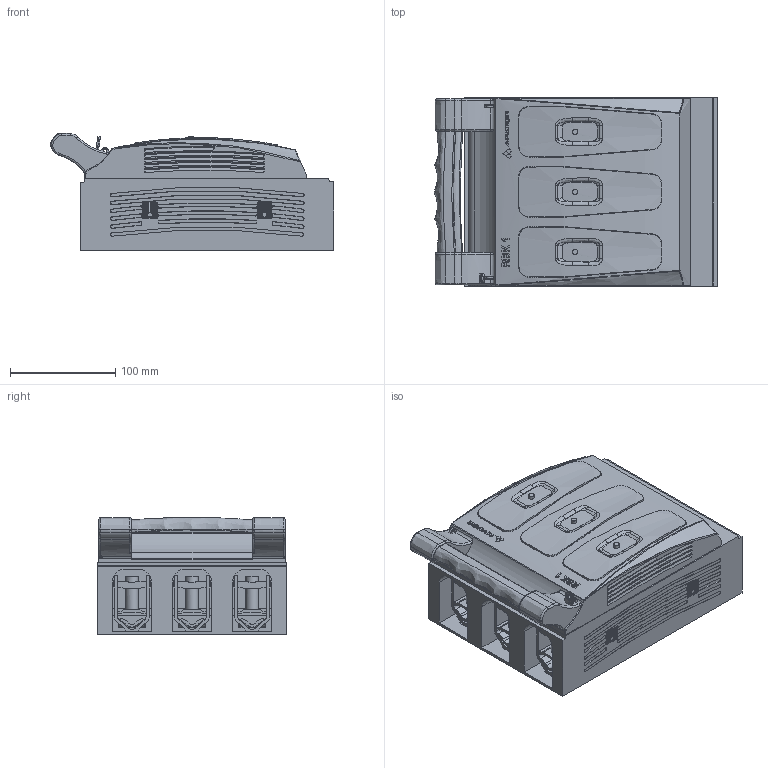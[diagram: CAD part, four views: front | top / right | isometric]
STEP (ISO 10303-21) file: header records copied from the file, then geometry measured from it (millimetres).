
FILE_DESCRIPTION(/* description */ (''),/* implementation_level */ '2;1');
FILE_NAME(/* name */ 'RBK 1 VG - 63-811784-051.stp',/* time_stamp */ '2019-03-11T09:18:00+01:00',/* author */ (''),/* organization */ (''),/* preprocessor_version */ 'ST-DEVELOPER v16',/* originating_system */ 'SIEMENS PLM Software NX 10.0',/* authorisation */ '');
FILE_SCHEMA (('AUTOMOTIVE_DESIGN { 1 0 10303 214 3 1 1 1 }'));
Products named in the file (1): 710_115086EF6xo7
Bounding box: 268.9 x 180 x 111 mm (x, y, z)
Surface area: 284828.7 mm2
Topology: 11 solids, 12 shells, 2477 faces, 6586 edges, 4188 vertices
Faces by surface type: plane 1528, bspline 335, cylinder 313, cone 144, torus 81, sphere 30, extrusion 28, revolution 18
Full cylindrical faces by diameter (mm): 4.5 x3, 11 x3
Entity records: 95298 total; most frequent: CARTESIAN_POINT 33116, ORIENTED_EDGE 12984, DIRECTION 12056, EDGE_CURVE 6492, AXIS2_PLACEMENT_3D 4468, VERTEX_POINT 4173, VECTOR 3098, LINE 3070
